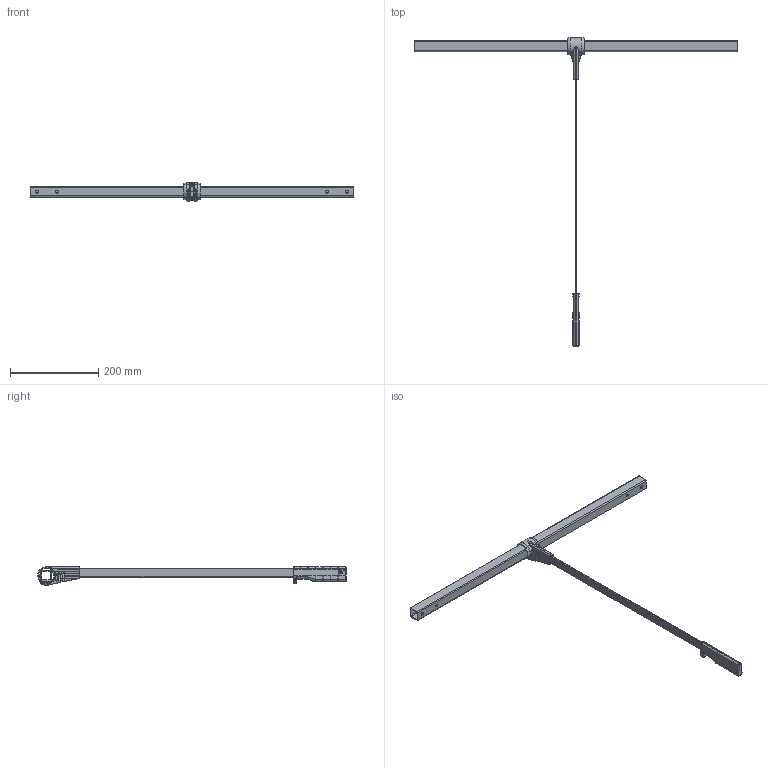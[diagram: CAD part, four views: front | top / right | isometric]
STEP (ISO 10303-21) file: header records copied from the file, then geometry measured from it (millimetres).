
FILE_DESCRIPTION((''),'2;1');
FILE_NAME('238278-MITTE-805-988_SW0001','2023-02-06T09:56:02',('1ke04'),('Kesseboehmer'),'CREO PARAMETRIC BY PTC INC, 2020414','CREO PARAMETRIC BY PTC INC, 2020414','');
FILE_SCHEMA(('AUTOMOTIVE_DESIGN { 1 0 10303 214 1 1 1 1 }'));
Length unit declared in the file: millimetre
Products named in the file (1): 238278-MITTE-805-988_SW0001
Bounding box: 730 x 697.84 x 41.7 mm (x, y, z)
Volume: 261940.2 mm3; surface area: 188562.4 mm2
Topology: 2 solids, 2 shells, 769 faces, 1962 edges, 1197 vertices
Faces by surface type: plane 285, cylinder 257, bspline 94, torus 87, cone 26, sphere 20
Entity records: 33887 total; most frequent: CARTESIAN_POINT 11988, ORIENTED_EDGE 3924, DIRECTION 3690, EDGE_CURVE 1962, AXIS2_PLACEMENT_3D 1361, VERTEX_POINT 1197, VECTOR 965, LINE 965
